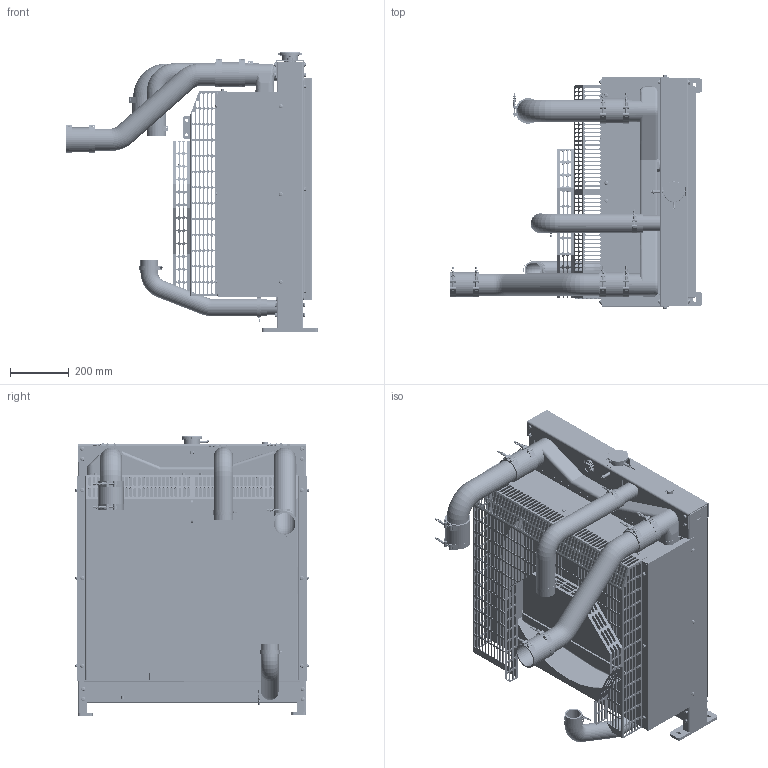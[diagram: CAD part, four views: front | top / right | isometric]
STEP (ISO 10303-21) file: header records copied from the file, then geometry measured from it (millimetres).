
FILE_DESCRIPTION((''),'2;1');
FILE_NAME('20210815_ASM','2021-08-13T',('Administrator'),(''),'PRO/ENGINEER BY PARAMETRIC TECHNOLOGY CORPORATION, 2012230','PRO/ENGINEER BY PARAMETRIC TECHNOLOGY CORPORATION, 2012230','');
FILE_SCHEMA(('CONFIG_CONTROL_DESIGN'));
Products named in the file (53): ZUOYOUCEBAN_4_1_1_1_1_1_1; SHANGJIAQIANGBAN1_6_1_1_1_1_1_1; XIAJIAQIANGBAN_10_1_1_1_1_1_1; SANREQI_14_1_1_1_1_1_1; MANIFOLD_SOLID_BREP_7200_1_1_1_; MANIFOLD_SOLID_BREP_7719_1_1_1_; JIASHUIKOU_1_ASM_1_ASM_1_ASM_1__ASM; JIASHUIKOUGAI_1_1_1_1_1_1_1; 2_ASM_1_ASM_1_ASM_1_ASM_1_ASM_1_ASM; YOUCEBAN_2_1_1_1_1_1_1; LUOSI_1_1_1_1_1_1_1; FENGZHAO_2_1_1_1_1_1_1; 20210813_ASM_1_ASM_1_ASM_1_ASM__ASM; ZHONGLENGQI_2_1_1_1_1_1; PRT0693_1_1_1_1; 20210813_ASM_ASM_1_ASM_1_ASM_1__ASM; HOUWANG_1_1_1_1_1; PRT0694_1_1_1_1; 20210813_ASM_ASM_ASM_1_ASM_1_AS_ASM; 20210813_ASM_ASM_ASM_ASM_1_ASM__ASM; 4HTAA4-3-G22_ASM_1_ASM_1_ASM_1__ASM; 20210813_ASM_1_ASM_1_ASM_ASM_1_ASM; 4HTAA4-3-G22_ASM_1_ASM_1_ASM_AS_ASM; 20210814_ASM_1_ASM_ASM_1_ASM; 4HTAA4-3-G22_ASM_1_ASM_ASM_1_ASM; 54001_1; 76001_1; 56001_1; 50001_1; ASM0043_ASM_1_ASM; FANGHUZHAOXIN_1_1_1; LUOSI_1; PRT0694_1; PRT0695_1; PRT0696_1; PRT0697_1; 4HTAA4-3-G22_ASM_ASM_ASM_1_ASM; KAGU; PRT0693; KAGU3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
Assembly tree (87 placements, depth 15):
  20210815_ASM
    4HTAA4-3-G22_ASM_ASM_ASM_1_ASM
      ASM0043_ASM_1_ASM
        4HTAA4-3-G22_ASM_1_ASM_ASM_1_ASM
          20210814_ASM_1_ASM_ASM_1_ASM
            4HTAA4-3-G22_ASM_1_ASM_1_ASM_AS_ASM
              20210813_ASM_1_ASM_1_ASM_ASM_1_ASM
                4HTAA4-3-G22_ASM_1_ASM_1_ASM_1__ASM
                  20210813_ASM_ASM_ASM_ASM_1_ASM__ASM
        54001_1
        76001_1
        56001_1
        50001_1
      FANGHUZHAOXIN_1_1_1
      LUOSI_1  x10
      PRT0694_1
      PRT0695_1
      PRT0696_1
      PRT0697_1
    KAGU  x2
    PRT0693
    KAGU3
    PRT0694
    KAGU9
    PRT0696
    FANGSHUIKAIGUAN
    YEWEI_ASM
      1002900728_20210805_ASM_1_ASM
        1002900728-QD-20210731_ASM_1_AS_ASM
          QS2164499E705VK_ASM_1_ASM_1_ASM
            G1_1_1_1
            1-961_1_1
            1-962_1_1
    PRT0697
Bounding box: 861.91 x 797.3 x 954.1 mm (x, y, z)
Volume: 70751849.8 mm3; surface area: 8269159.9 mm2
Topology: 62 solids, 190 shells, 6129 faces, 18612 edges, 12625 vertices
Faces by surface type: plane 3338, cylinder 2061, bspline 311, cone 260, torus 156, extrusion 3
Entity records: 212929 total; most frequent: CARTESIAN_POINT 61215, ORIENTED_EDGE 31328, DIRECTION 30432, EDGE_CURVE 16368, VERTEX_POINT 11200, VECTOR 10908, LINE 10905, AXIS2_PLACEMENT_3D 9762
